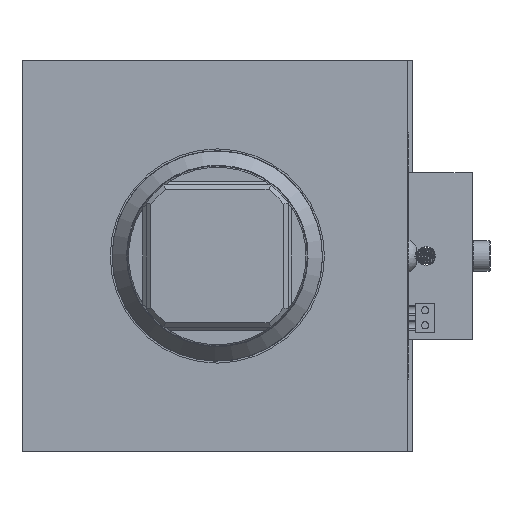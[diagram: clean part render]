
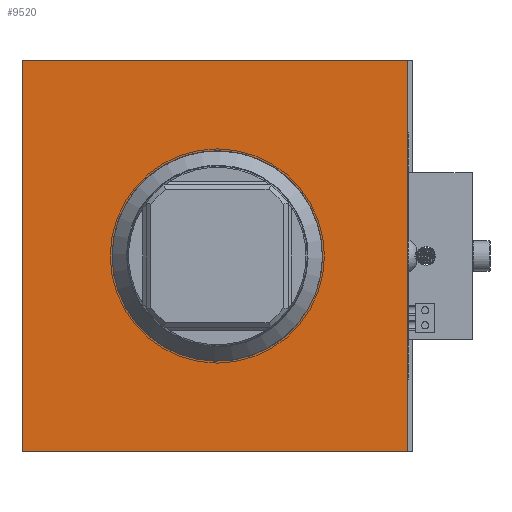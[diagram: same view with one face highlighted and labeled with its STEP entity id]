
A CAD part, front view. The second image highlights one B-rep face of the part: STEP entity #9520.
In plain terms, the highlighted planar face has unit normal (0, -1, 0).
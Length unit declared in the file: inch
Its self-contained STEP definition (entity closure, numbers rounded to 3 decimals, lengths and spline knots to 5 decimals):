
#228=PLANE('',#10569);
#337=FACE_BOUND('',#1415,.T.);
#856=FACE_OUTER_BOUND('',#1414,.T.);
#1414=EDGE_LOOP('',(#7920,#7921,#7922,#7923));
#1415=EDGE_LOOP('',(#7924,#7925));
#1855=CIRCLE('',#10370,1.166);
#1856=CIRCLE('',#10371,1.166);
#2283=LINE('',#18184,#2902);
#2698=LINE('',#22159,#3317);
#2699=LINE('',#22161,#3318);
#2700=LINE('',#22162,#3319);
#2902=VECTOR('',#11078,0.3937);
#3317=VECTOR('',#12955,0.3937);
#3318=VECTOR('',#12956,0.3937);
#3319=VECTOR('',#12957,0.3937);
#3603=VERTEX_POINT('',#18181);
#3604=VERTEX_POINT('',#18183);
#4044=VERTEX_POINT('',#21536);
#4045=VERTEX_POINT('',#21538);
#4217=VERTEX_POINT('',#22158);
#4218=VERTEX_POINT('',#22160);
#4608=EDGE_CURVE('',#3603,#3604,#2283,.T.);
#5262=EDGE_CURVE('',#4044,#4045,#1855,.T.);
#5263=EDGE_CURVE('',#4045,#4044,#1856,.T.);
#5506=EDGE_CURVE('',#4217,#3603,#2698,.T.);
#5507=EDGE_CURVE('',#4218,#4217,#2699,.T.);
#5508=EDGE_CURVE('',#3604,#4218,#2700,.T.);
#7920=ORIENTED_EDGE('',*,*,#4608,.F.);
#7921=ORIENTED_EDGE('',*,*,#5506,.F.);
#7922=ORIENTED_EDGE('',*,*,#5507,.F.);
#7923=ORIENTED_EDGE('',*,*,#5508,.F.);
#7924=ORIENTED_EDGE('',*,*,#5263,.F.);
#7925=ORIENTED_EDGE('',*,*,#5262,.F.);
#9520=ADVANCED_FACE('',(#856,#337),#228,.F.);
#10370=AXIS2_PLACEMENT_3D('',#21539,#12460,#12461);
#10371=AXIS2_PLACEMENT_3D('',#21540,#12462,#12463);
#10569=AXIS2_PLACEMENT_3D('',#22157,#12953,#12954);
#11078=DIRECTION('',(0.,0.,-1.));
#12460=DIRECTION('center_axis',(0.,-1.,0.));
#12461=DIRECTION('ref_axis',(1.,0.,0.));
#12462=DIRECTION('center_axis',(0.,-1.,0.));
#12463=DIRECTION('ref_axis',(1.,0.,0.));
#12953=DIRECTION('center_axis',(0.,1.,0.));
#12954=DIRECTION('ref_axis',(1.,0.,0.));
#12955=DIRECTION('',(1.,0.,0.));
#12956=DIRECTION('',(0.,0.,1.));
#12957=DIRECTION('',(-1.,0.,0.));
#18181=CARTESIAN_POINT('',(2.1105,-11.87902,-42.13458));
#18183=CARTESIAN_POINT('',(2.1105,-11.87902,-46.46558));
#18184=CARTESIAN_POINT('',(2.1105,-11.87902,-44.201));
#21536=CARTESIAN_POINT('',(1.08593,-11.87902,-44.72471));
#21538=CARTESIAN_POINT('',(-1.166,-11.87902,-44.30008));
#21539=CARTESIAN_POINT('Origin',(0.,-11.87902,
-44.30008));
#21540=CARTESIAN_POINT('Origin',(0.,-11.87902,
-44.30008));
#22157=CARTESIAN_POINT('Origin',(-0.0225,-11.87902,
-44.30008));
#22158=CARTESIAN_POINT('',(-2.1555,-11.87902,-42.13458));
#22159=CARTESIAN_POINT('',(-1.094,-11.87902,-42.13458));
#22160=CARTESIAN_POINT('',(-2.1555,-11.87902,-46.46558));
#22161=CARTESIAN_POINT('',(-2.1555,-11.87902,-44.30008));
#22162=CARTESIAN_POINT('',(1.0715,-11.87902,-46.46558));
